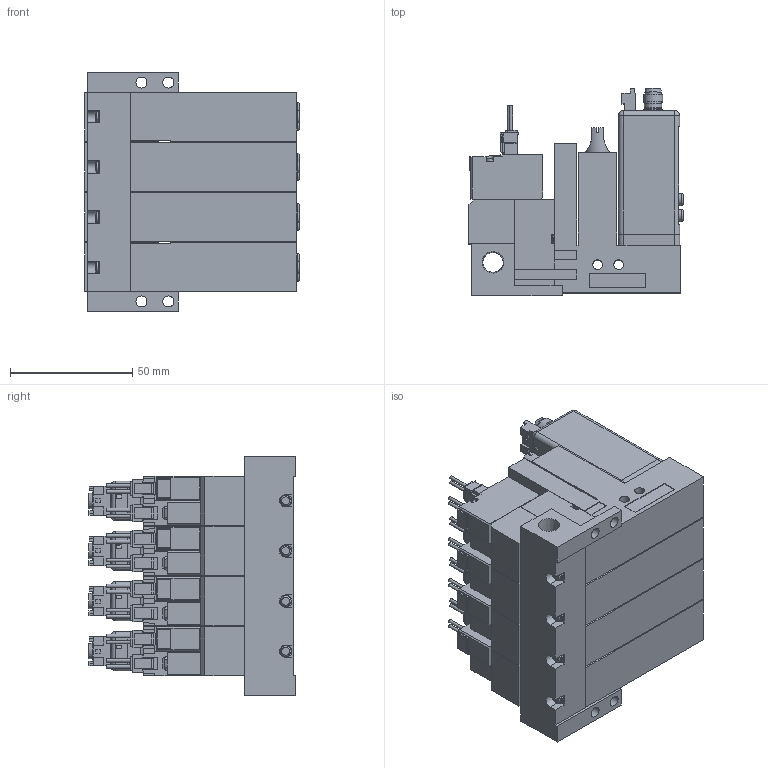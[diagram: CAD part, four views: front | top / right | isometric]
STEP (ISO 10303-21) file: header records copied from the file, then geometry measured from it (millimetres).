
FILE_DESCRIPTION(('STEP AP203'),'1');
FILE_NAME('22_22PL5ALR404.stp','2025-06-12T03:04:35',(' '),(' '),'Spatial InterOp 3D',' ',' ');
FILE_SCHEMA(('CONFIG_CONTROL_DESIGN'));
Length unit declared in the file: millimetre
Products named in the file (8): BMC22M※※※※22_22PL5ALR404; Solenoid valve A; Unit L; Base MR40R; MVS-202
Assembly tree (13 placements, depth 2):
  BMC22M※※※※22_22PL5ALR404
    Solenoid valve A  x4
    Unit L  x4
    Base MR40R
    MVS-202
    MVS-202
    MVS-202
    MVS-202
Bounding box: 87.5 x 84.6 x 97.5 mm (x, y, z)
Volume: 390693.4 mm3; surface area: 118362.8 mm2
Topology: 13 solids, 29 shells, 3093 faces, 8055 edges, 5260 vertices
Faces by surface type: plane 2598, cylinder 389, cone 66, torus 24, sphere 16
Full cylindrical faces by diameter (mm): 1 x16, 1.4 x16, 1.5 x4, 2.5 x4, 3 x16, 3.5 x16, 3.6 x4, 4 x8, 4.134 x4, 4.5 x20, 4.8 x12, 5 x8, 5.2 x4, 5.8 x8, 6 x8, 6.5 x12, 6.6 x4, 7 x4, 7.2 x4, 7.9 x4, 8 x8, 8.279 x1
Entity records: 62447 total; most frequent: CARTESIAN_POINT 11238, ORIENTED_EDGE 10230, DIRECTION 10071, EDGE_CURVE 5115, LINE 4323, VECTOR 4323, VERTEX_POINT 3461, AXIS2_PLACEMENT_3D 2874
